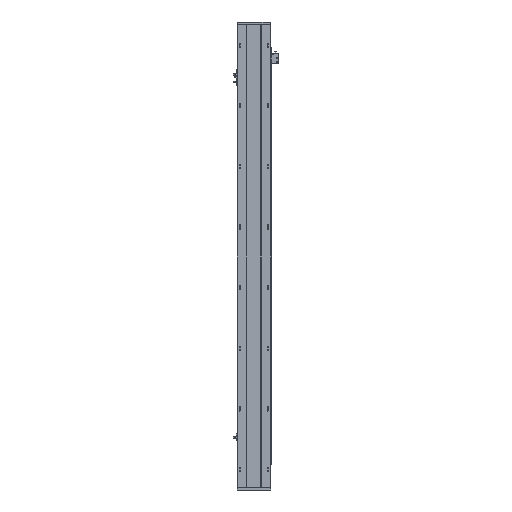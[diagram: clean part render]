
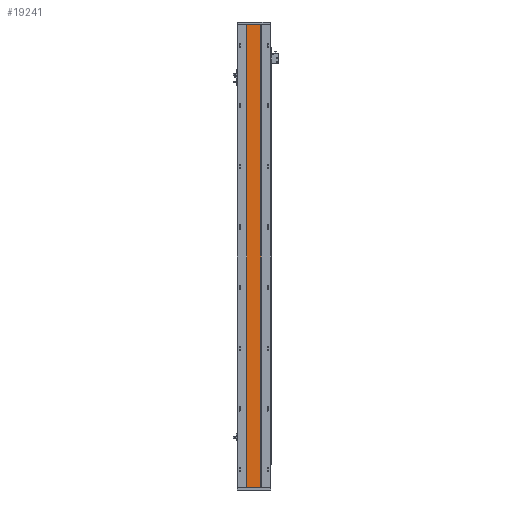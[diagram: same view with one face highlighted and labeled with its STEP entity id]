
A CAD part, front view. The second image highlights one B-rep face of the part: STEP entity #19241.
In plain terms, the highlighted planar face has unit normal (0, -1, 0).
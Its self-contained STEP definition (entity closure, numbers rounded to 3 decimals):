
#562 = VERTEX_POINT ( 'NONE', #782 ) ;
#782 = CARTESIAN_POINT ( 'NONE',  ( 133.07, 115.96, 0. ) ) ;
#817 = PLANE ( 'NONE',  #17787 ) ;
#1627 = CARTESIAN_POINT ( 'NONE',  ( 183.063, 115.96, 0. ) ) ;
#1879 = VECTOR ( 'NONE', #25614, 1000. ) ;
#2090 = VERTEX_POINT ( 'NONE', #23999 ) ;
#3133 = ORIENTED_EDGE ( 'NONE', *, *, #6021, .T. ) ;
#3235 = ORIENTED_EDGE ( 'NONE', *, *, #26899, .F. ) ;
#4054 = VECTOR ( 'NONE', #27528, 1000. ) ;
#5173 = FACE_OUTER_BOUND ( 'NONE', #19971, .T. ) ;
#5731 = CARTESIAN_POINT ( 'NONE',  ( 183.063, 115.96, 1648. ) ) ;
#6021 = EDGE_CURVE ( 'NONE', #562, #18258, #11271, .T. ) ;
#6617 = LINE ( 'NONE', #26841, #9729 ) ;
#9709 = VECTOR ( 'NONE', #20314, 1000. ) ;
#9729 = VECTOR ( 'NONE', #26659, 1000. ) ;
#11271 = LINE ( 'NONE', #27331, #4054 ) ;
#13489 = VERTEX_POINT ( 'NONE', #18433 ) ;
#13658 = DIRECTION ( 'NONE',  ( -1., 0., 0. ) ) ;
#14542 = LINE ( 'NONE', #15693, #9709 ) ;
#14635 = LINE ( 'NONE', #5731, #1879 ) ;
#15693 = CARTESIAN_POINT ( 'NONE',  ( 133.07, 115.96, 1648. ) ) ;
#16164 = CARTESIAN_POINT ( 'NONE',  ( 0., 115.96, 1648. ) ) ;
#17418 = EDGE_CURVE ( 'NONE', #2090, #13489, #6617, .T. ) ;
#17787 = AXIS2_PLACEMENT_3D ( 'NONE', #16164, #18178, #13658 ) ;
#18178 = DIRECTION ( 'NONE',  ( 0., 1., 0. ) ) ;
#18258 = VERTEX_POINT ( 'NONE', #1627 ) ;
#18433 = CARTESIAN_POINT ( 'NONE',  ( 183.063, 115.96, 1648. ) ) ;
#18469 = EDGE_CURVE ( 'NONE', #2090, #562, #14542, .T. ) ;
#19241 = ADVANCED_FACE ( 'NONE', ( #5173 ), #817, .F. ) ;
#19971 = EDGE_LOOP ( 'NONE', ( #3133, #3235, #20802, #28349 ) ) ;
#20314 = DIRECTION ( 'NONE',  ( 0., 0., -1. ) ) ;
#20802 = ORIENTED_EDGE ( 'NONE', *, *, #17418, .F. ) ;
#23999 = CARTESIAN_POINT ( 'NONE',  ( 133.07, 115.96, 1648. ) ) ;
#25614 = DIRECTION ( 'NONE',  ( 0., 0., -1. ) ) ;
#26659 = DIRECTION ( 'NONE',  ( 1., 0., 0. ) ) ;
#26841 = CARTESIAN_POINT ( 'NONE',  ( 0., 115.96, 1648. ) ) ;
#26899 = EDGE_CURVE ( 'NONE', #13489, #18258, #14635, .T. ) ;
#27331 = CARTESIAN_POINT ( 'NONE',  ( 0., 115.96, 0. ) ) ;
#27528 = DIRECTION ( 'NONE',  ( 1., 0., 0. ) ) ;
#28349 = ORIENTED_EDGE ( 'NONE', *, *, #18469, .T. ) ;
